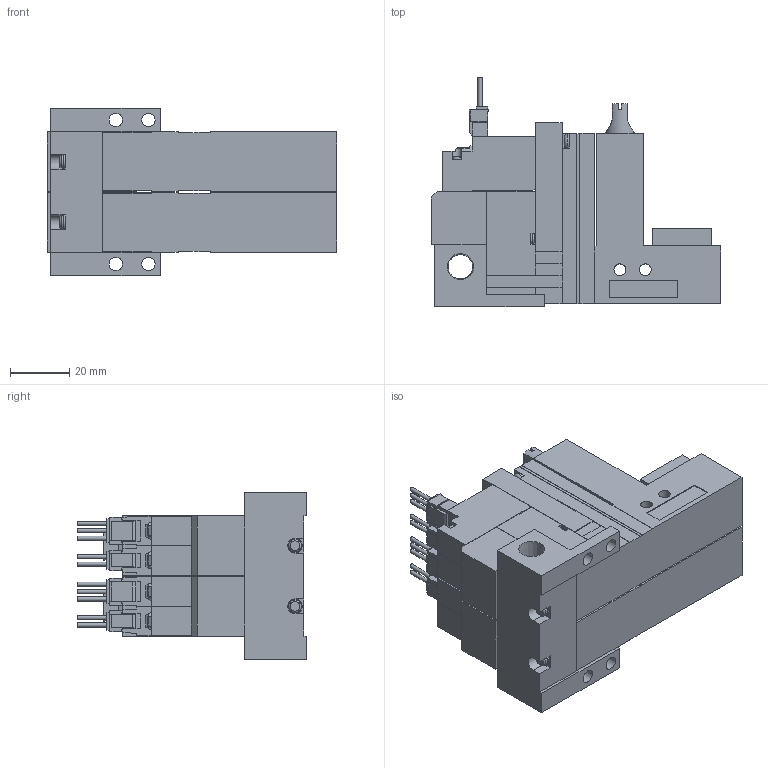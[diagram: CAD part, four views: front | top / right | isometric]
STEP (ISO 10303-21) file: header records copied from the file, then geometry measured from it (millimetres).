
FILE_DESCRIPTION(('STEP AP203'),'1');
FILE_NAME('ZLC5WLR202.stp','2025-06-18T05:23:02',(' '),(' '),'Spatial InterOp 3D',' ',' ');
FILE_SCHEMA(('CONFIG_CONTROL_DESIGN'));
Length unit declared in the file: millimetre
Products named in the file (5): BMC22M※※※※ZLC5WLR202; Solenoid valve W; Pressure sensor ZLC; Unit LC; Base MR20R
Assembly tree (7 placements, depth 2):
  BMC22M※※※※ZLC5WLR202
    Solenoid valve W  x2
    Pressure sensor ZLC  x2
    Unit LC  x2
    Base MR20R
Bounding box: 97.6 x 77.45 x 56.5 mm (x, y, z)
Volume: 183981 mm3; surface area: 50135.6 mm2
Topology: 7 solids, 7 shells, 747 faces, 2029 edges, 1334 vertices
Faces by surface type: plane 642, cylinder 79, cone 16, torus 10
Full cylindrical faces by diameter (mm): 1.4 x10, 2.5 x2, 3 x8, 3.5 x8, 3.6 x2, 4 x4, 4.134 x2, 4.5 x4, 5.2 x2, 6 x2, 6.6 x2, 8.279 x1
Entity records: 12515 total; most frequent: CARTESIAN_POINT 2351, ORIENTED_EDGE 2022, DIRECTION 1963, EDGE_CURVE 1011, LINE 861, VECTOR 861, VERTEX_POINT 693, AXIS2_PLACEMENT_3D 551
